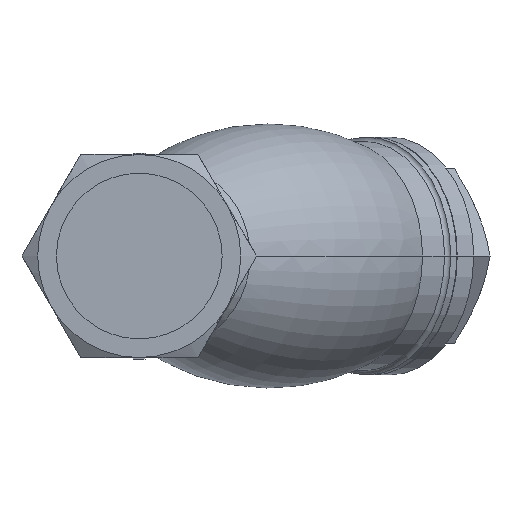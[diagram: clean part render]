
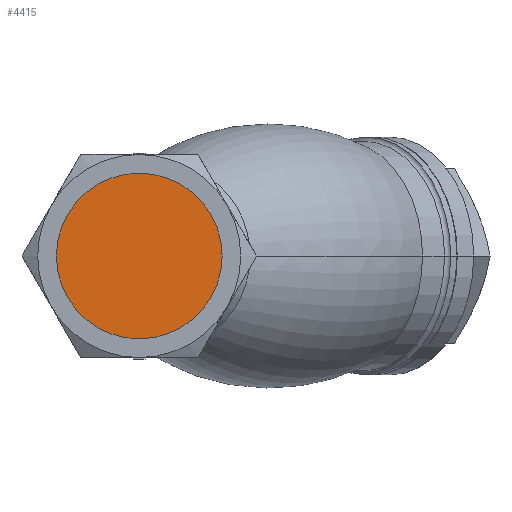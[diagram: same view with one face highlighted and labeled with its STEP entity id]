
A CAD part, left-side view. The second image highlights one B-rep face of the part: STEP entity #4415.
In plain terms, the highlighted planar face has unit normal (-1, 0, 0).
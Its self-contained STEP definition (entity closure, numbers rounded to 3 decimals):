
#237 = DIRECTION ( 'NONE',  ( -1., 0., 0. ) ) ;
#597 = EDGE_CURVE ( 'NONE', #2031, #2133, #1690, .T. ) ;
#616 = CIRCLE ( 'NONE', #3241, 28.55 ) ;
#801 = DIRECTION ( 'NONE',  ( 0., 0., 1. ) ) ;
#873 = AXIS2_PLACEMENT_3D ( 'NONE', #1942, #3682, #801 ) ;
#908 = CARTESIAN_POINT ( 'NONE',  ( -37.5, 0., 0. ) ) ;
#1247 = CARTESIAN_POINT ( 'NONE',  ( -37.5, 0., 0. ) ) ;
#1584 = PLANE ( 'NONE',  #3696 ) ;
#1690 = CIRCLE ( 'NONE', #873, 28.55 ) ;
#1897 = FACE_OUTER_BOUND ( 'NONE', #2646, .T. ) ;
#1942 = CARTESIAN_POINT ( 'NONE',  ( -37.5, 0., 0. ) ) ;
#2031 = VERTEX_POINT ( 'NONE', #3764 ) ;
#2133 = VERTEX_POINT ( 'NONE', #3493 ) ;
#2135 = DIRECTION ( 'NONE',  ( 0., 0., 1. ) ) ;
#2300 = DIRECTION ( 'NONE',  ( -1., 0., 0. ) ) ;
#2646 = EDGE_LOOP ( 'NONE', ( #4457, #3139 ) ) ;
#3139 = ORIENTED_EDGE ( 'NONE', *, *, #4178, .T. ) ;
#3241 = AXIS2_PLACEMENT_3D ( 'NONE', #1247, #237, #2135 ) ;
#3493 = CARTESIAN_POINT ( 'NONE',  ( -37.5, 0., -28.55 ) ) ;
#3682 = DIRECTION ( 'NONE',  ( -1., 0., 0. ) ) ;
#3696 = AXIS2_PLACEMENT_3D ( 'NONE', #908, #2300, #4477 ) ;
#3764 = CARTESIAN_POINT ( 'NONE',  ( -37.5, 0., 28.55 ) ) ;
#4178 = EDGE_CURVE ( 'NONE', #2133, #2031, #616, .T. ) ;
#4415 = ADVANCED_FACE ( 'NONE', ( #1897 ), #1584, .T. ) ;
#4457 = ORIENTED_EDGE ( 'NONE', *, *, #597, .T. ) ;
#4477 = DIRECTION ( 'NONE',  ( 0., 0., 1. ) ) ;
